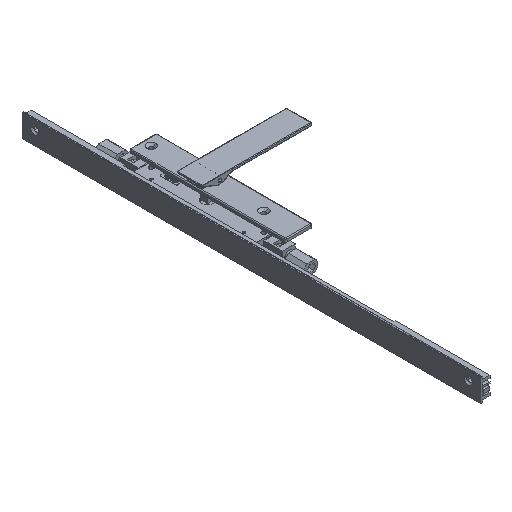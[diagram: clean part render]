
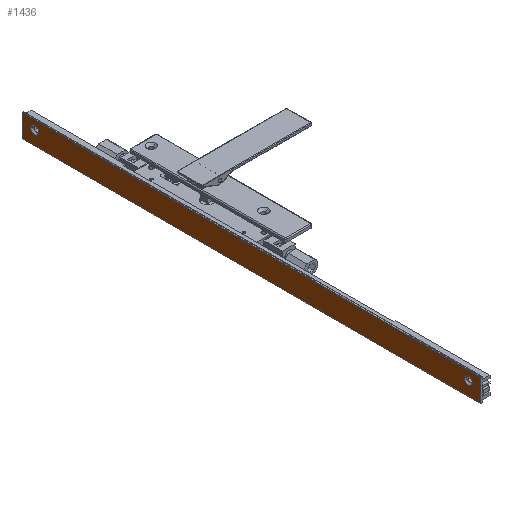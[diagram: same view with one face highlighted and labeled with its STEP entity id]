
A CAD part, isometric view. The second image highlights one B-rep face of the part: STEP entity #1436.
In plain terms, the highlighted planar face has unit normal (-1, 0, 0) as drawn and (0, 1, 0) by its records, which use the part's own axes.
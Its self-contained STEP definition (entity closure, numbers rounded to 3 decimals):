
#166 = AXIS2_PLACEMENT_3D ( 'NONE', #15423, #14059, #3699 ) ;
#236 = VECTOR ( 'NONE', #4016, 1000. ) ;
#367 = CARTESIAN_POINT ( 'NONE',  ( 11.8, 12.4, 15. ) ) ;
#439 = CARTESIAN_POINT ( 'NONE',  ( 11.8, 12.4, 533.889 ) ) ;
#918 = CARTESIAN_POINT ( 'NONE',  ( 22., 12.4, 0. ) ) ;
#1214 = EDGE_LOOP ( 'NONE', ( #10597, #5836 ) ) ;
#1270 = CARTESIAN_POINT ( 'NONE',  ( 22., 12.4, 0. ) ) ;
#1436 = ADVANCED_FACE ( 'NONE', ( #7794, #13745, #7898 ), #18224, .F. ) ;
#1712 = CIRCLE ( 'NONE', #11384, 4.89 ) ;
#2614 = CARTESIAN_POINT ( 'NONE',  ( 11.8, 12.4, 529. ) ) ;
#2842 = EDGE_CURVE ( 'NONE', #8857, #10181, #4899, .T. ) ;
#3230 = ORIENTED_EDGE ( 'NONE', *, *, #18385, .F. ) ;
#3236 = CARTESIAN_POINT ( 'NONE',  ( 22., 12.4, 544. ) ) ;
#3386 = DIRECTION ( 'NONE',  ( 1., 0., 0. ) ) ;
#3415 = CIRCLE ( 'NONE', #11836, 4.89 ) ;
#3699 = DIRECTION ( 'NONE',  ( 0., 0., 1. ) ) ;
#3897 = CIRCLE ( 'NONE', #166, 4.889 ) ;
#4016 = DIRECTION ( 'NONE',  ( 0., 0., 1. ) ) ;
#4378 = EDGE_CURVE ( 'NONE', #11860, #17972, #8377, .T. ) ;
#4846 = AXIS2_PLACEMENT_3D ( 'NONE', #4863, #10818, #3386 ) ;
#4863 = CARTESIAN_POINT ( 'NONE',  ( 20.8, 12.4, 544. ) ) ;
#4899 = CIRCLE ( 'NONE', #11431, 4.889 ) ;
#4959 = VERTEX_POINT ( 'NONE', #12716 ) ;
#5459 = DIRECTION ( 'NONE',  ( 0., 0., 1. ) ) ;
#5628 = VERTEX_POINT ( 'NONE', #5689 ) ;
#5643 = EDGE_CURVE ( 'NONE', #17972, #8730, #7056, .T. ) ;
#5689 = CARTESIAN_POINT ( 'NONE',  ( 11.8, 12.4, 19.89 ) ) ;
#5836 = ORIENTED_EDGE ( 'NONE', *, *, #17042, .F. ) ;
#6712 = CARTESIAN_POINT ( 'NONE',  ( -4.4, 12.4, 544. ) ) ;
#6862 = ORIENTED_EDGE ( 'NONE', *, *, #15726, .F. ) ;
#7056 = LINE ( 'NONE', #14664, #9307 ) ;
#7194 = VECTOR ( 'NONE', #12821, 1000. ) ;
#7794 = FACE_BOUND ( 'NONE', #1214, .T. ) ;
#7898 = FACE_OUTER_BOUND ( 'NONE', #11868, .T. ) ;
#7978 = DIRECTION ( 'NONE',  ( 0., 0., 1. ) ) ;
#8377 = LINE ( 'NONE', #9944, #17385 ) ;
#8730 = VERTEX_POINT ( 'NONE', #6712 ) ;
#8857 = VERTEX_POINT ( 'NONE', #15329 ) ;
#8937 = EDGE_CURVE ( 'NONE', #10181, #8857, #3897, .T. ) ;
#9081 = DIRECTION ( 'NONE',  ( 0., 0., 1. ) ) ;
#9221 = EDGE_CURVE ( 'NONE', #5628, #4959, #1712, .T. ) ;
#9307 = VECTOR ( 'NONE', #13112, 1000. ) ;
#9377 = CARTESIAN_POINT ( 'NONE',  ( 11.8, 12.4, 15. ) ) ;
#9657 = CARTESIAN_POINT ( 'NONE',  ( -4.4, 12.4, 0. ) ) ;
#9944 = CARTESIAN_POINT ( 'NONE',  ( 20.8, 12.4, 0. ) ) ;
#10181 = VERTEX_POINT ( 'NONE', #439 ) ;
#10416 = EDGE_LOOP ( 'NONE', ( #19060, #14929 ) ) ;
#10597 = ORIENTED_EDGE ( 'NONE', *, *, #9221, .F. ) ;
#10818 = DIRECTION ( 'NONE',  ( 0., -1., 0. ) ) ;
#11137 = VERTEX_POINT ( 'NONE', #3236 ) ;
#11159 = CARTESIAN_POINT ( 'NONE',  ( 20.8, 12.4, 544. ) ) ;
#11384 = AXIS2_PLACEMENT_3D ( 'NONE', #9377, #15101, #9081 ) ;
#11431 = AXIS2_PLACEMENT_3D ( 'NONE', #2614, #12876, #5459 ) ;
#11455 = LINE ( 'NONE', #918, #236 ) ;
#11836 = AXIS2_PLACEMENT_3D ( 'NONE', #367, #16630, #7978 ) ;
#11860 = VERTEX_POINT ( 'NONE', #1270 ) ;
#11868 = EDGE_LOOP ( 'NONE', ( #18892, #14384, #3230, #6862 ) ) ;
#12620 = LINE ( 'NONE', #11159, #7194 ) ;
#12716 = CARTESIAN_POINT ( 'NONE',  ( 11.8, 12.4, 10.111 ) ) ;
#12821 = DIRECTION ( 'NONE',  ( -1., 0., 0. ) ) ;
#12876 = DIRECTION ( 'NONE',  ( 0., 1., 0. ) ) ;
#13112 = DIRECTION ( 'NONE',  ( 0., 0., 1. ) ) ;
#13745 = FACE_BOUND ( 'NONE', #10416, .T. ) ;
#14059 = DIRECTION ( 'NONE',  ( 0., 1., 0. ) ) ;
#14384 = ORIENTED_EDGE ( 'NONE', *, *, #5643, .T. ) ;
#14401 = DIRECTION ( 'NONE',  ( -1., 0., 0. ) ) ;
#14664 = CARTESIAN_POINT ( 'NONE',  ( -4.4, 12.4, 0. ) ) ;
#14929 = ORIENTED_EDGE ( 'NONE', *, *, #2842, .F. ) ;
#15101 = DIRECTION ( 'NONE',  ( 0., 1., 0. ) ) ;
#15329 = CARTESIAN_POINT ( 'NONE',  ( 11.8, 12.4, 524.111 ) ) ;
#15423 = CARTESIAN_POINT ( 'NONE',  ( 11.8, 12.4, 529. ) ) ;
#15726 = EDGE_CURVE ( 'NONE', #11860, #11137, #11455, .T. ) ;
#16630 = DIRECTION ( 'NONE',  ( 0., 1., 0. ) ) ;
#17042 = EDGE_CURVE ( 'NONE', #4959, #5628, #3415, .T. ) ;
#17385 = VECTOR ( 'NONE', #14401, 1000. ) ;
#17972 = VERTEX_POINT ( 'NONE', #9657 ) ;
#18224 = PLANE ( 'NONE',  #4846 ) ;
#18385 = EDGE_CURVE ( 'NONE', #11137, #8730, #12620, .T. ) ;
#18892 = ORIENTED_EDGE ( 'NONE', *, *, #4378, .T. ) ;
#19060 = ORIENTED_EDGE ( 'NONE', *, *, #8937, .F. ) ;
